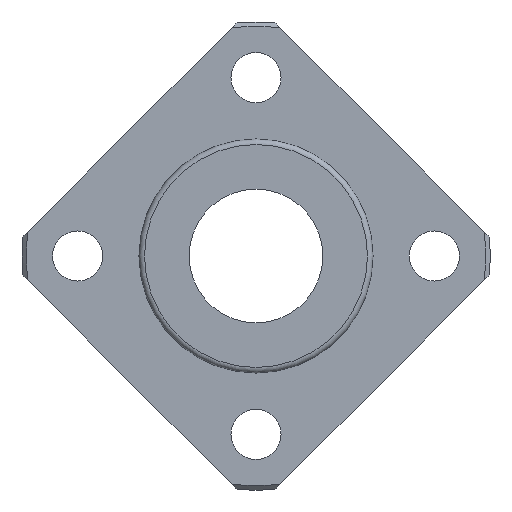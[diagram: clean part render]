
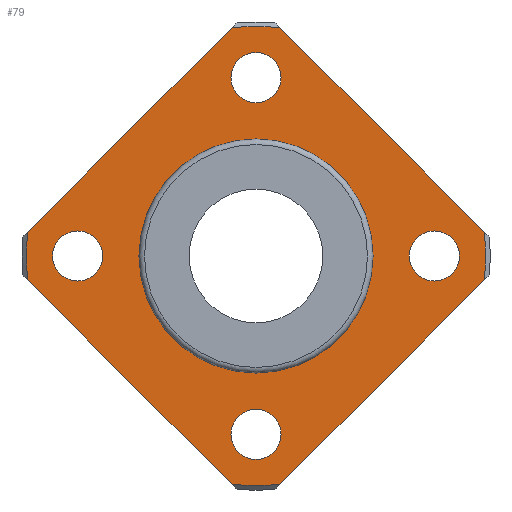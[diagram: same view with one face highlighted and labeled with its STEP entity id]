
A CAD part, left-side view. The second image highlights one B-rep face of the part: STEP entity #79.
In plain terms, the highlighted planar face has unit normal (-1, 0, 0).
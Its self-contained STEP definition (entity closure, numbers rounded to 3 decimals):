
#79=ADVANCED_FACE('',(#125,#126,#127,#128,#129,#130),#131,.T.);
#125=FACE_BOUND('',#240,.T.);
#126=FACE_BOUND('',#241,.T.);
#127=FACE_BOUND('',#242,.T.);
#128=FACE_BOUND('',#243,.T.);
#129=FACE_BOUND('',#244,.T.);
#130=FACE_OUTER_BOUND('',#245,.T.);
#131=PLANE('',#246);
#240=EDGE_LOOP('',(#387));
#241=EDGE_LOOP('',(#388));
#242=EDGE_LOOP('',(#389));
#243=EDGE_LOOP('',(#390));
#244=EDGE_LOOP('',(#391));
#245=EDGE_LOOP('',(#392,#393,#394,#395,#396,#397,#398,#399));
#246=AXIS2_PLACEMENT_3D('',#400,#401,#402);
#387=ORIENTED_EDGE('',*,*,#648,.F.);
#388=ORIENTED_EDGE('',*,*,#649,.T.);
#389=ORIENTED_EDGE('',*,*,#650,.T.);
#390=ORIENTED_EDGE('',*,*,#651,.T.);
#391=ORIENTED_EDGE('',*,*,#652,.T.);
#392=ORIENTED_EDGE('',*,*,#632,.T.);
#393=ORIENTED_EDGE('',*,*,#634,.T.);
#394=ORIENTED_EDGE('',*,*,#653,.T.);
#395=ORIENTED_EDGE('',*,*,#654,.T.);
#396=ORIENTED_EDGE('',*,*,#655,.T.);
#397=ORIENTED_EDGE('',*,*,#622,.T.);
#398=ORIENTED_EDGE('',*,*,#656,.T.);
#399=ORIENTED_EDGE('',*,*,#641,.T.);
#400=CARTESIAN_POINT('',(-6.0,15.375,0.0));
#401=DIRECTION('',(-1.0,0.0,0.));
#402=DIRECTION('',(0.,0.0,1.0));
#622=EDGE_CURVE('',#698,#699,#700,.T.);
#632=EDGE_CURVE('',#719,#717,#720,.T.);
#634=EDGE_CURVE('',#717,#722,#723,.T.);
#641=EDGE_CURVE('',#735,#719,#736,.T.);
#648=EDGE_CURVE('',#748,#748,#749,.T.);
#649=EDGE_CURVE('',#750,#750,#751,.T.);
#650=EDGE_CURVE('',#752,#752,#753,.T.);
#651=EDGE_CURVE('',#754,#754,#755,.T.);
#652=EDGE_CURVE('',#756,#756,#757,.T.);
#653=EDGE_CURVE('',#722,#758,#759,.T.);
#654=EDGE_CURVE('',#758,#760,#761,.T.);
#655=EDGE_CURVE('',#760,#698,#762,.T.);
#656=EDGE_CURVE('',#699,#735,#763,.T.);
#698=VERTEX_POINT('',#834);
#699=VERTEX_POINT('',#835);
#700=LINE('',#836,#837);
#717=VERTEX_POINT('',#869);
#719=VERTEX_POINT('',#874);
#720=CIRCLE('',#875,20.6);
#722=VERTEX_POINT('',#880);
#723=LINE('',#881,#882);
#735=VERTEX_POINT('',#906);
#736=LINE('',#907,#908);
#748=VERTEX_POINT('',#932);
#749=CIRCLE('',#933,10.15);
#750=VERTEX_POINT('',#934);
#751=CIRCLE('',#935,2.25);
#752=VERTEX_POINT('',#936);
#753=CIRCLE('',#937,2.25);
#754=VERTEX_POINT('',#938);
#755=CIRCLE('',#939,2.25);
#756=VERTEX_POINT('',#940);
#757=CIRCLE('',#941,2.25);
#758=VERTEX_POINT('',#942);
#759=CIRCLE('',#943,20.6);
#760=VERTEX_POINT('',#944);
#761=LINE('',#945,#946);
#762=CIRCLE('',#947,20.6);
#763=CIRCLE('',#948,20.6);
#834=CARTESIAN_POINT('',(-6.0,-20.489,2.139));
#835=CARTESIAN_POINT('',(-6.0,-2.139,20.489));
#836=CARTESIAN_POINT('',(-6.0,-3.626,19.001));
#837=VECTOR('',#1034,1.0);
#869=CARTESIAN_POINT('',(-6.0,20.489,-2.139));
#874=CARTESIAN_POINT('',(-6.0,20.489,2.139));
#875=AXIS2_PLACEMENT_3D('',#1041,#1042,#1043);
#880=CARTESIAN_POINT('',(-6.0,2.139,-20.489));
#881=CARTESIAN_POINT('',(-6.0,19.001,-3.626));
#882=VECTOR('',#1044,1.0);
#906=CARTESIAN_POINT('',(-6.0,2.139,20.489));
#907=CARTESIAN_POINT('',(-6.0,19.001,3.626));
#908=VECTOR('',#1048,1.0);
#932=CARTESIAN_POINT('',(-6.0,10.15,0.0));
#933=AXIS2_PLACEMENT_3D('',#1052,#1053,#1054);
#934=CARTESIAN_POINT('',(-6.0,16.0,2.25));
#935=AXIS2_PLACEMENT_3D('',#1055,#1056,#1057);
#936=CARTESIAN_POINT('',(-6.0,0.0,-13.75));
#937=AXIS2_PLACEMENT_3D('',#1058,#1059,#1060);
#938=CARTESIAN_POINT('',(-6.0,-16.0,2.25));
#939=AXIS2_PLACEMENT_3D('',#1061,#1062,#1063);
#940=CARTESIAN_POINT('',(-6.0,0.0,18.25));
#941=AXIS2_PLACEMENT_3D('',#1064,#1065,#1066);
#942=CARTESIAN_POINT('',(-6.0,-2.139,-20.489));
#943=AXIS2_PLACEMENT_3D('',#1067,#1068,#1069);
#944=CARTESIAN_POINT('',(-6.0,-20.489,-2.139));
#945=CARTESIAN_POINT('',(-6.0,-3.626,-19.001));
#946=VECTOR('',#1070,1.0);
#947=AXIS2_PLACEMENT_3D('',#1071,#1072,#1073);
#948=AXIS2_PLACEMENT_3D('',#1074,#1075,#1076);
#1034=DIRECTION('',(0.,0.707,0.707));
#1041=CARTESIAN_POINT('',(-6.0,0.0,0.0));
#1042=DIRECTION('',(-1.0,0.0,0.));
#1043=DIRECTION('',(0.0,1.0,0.0));
#1044=DIRECTION('',(0.,-0.707,-0.707));
#1048=DIRECTION('',(0.,0.707,-0.707));
#1052=CARTESIAN_POINT('',(-6.0,0.0,0.0));
#1053=DIRECTION('',(-1.0,0.0,0.));
#1054=DIRECTION('',(0.0,1.0,0.0));
#1055=CARTESIAN_POINT('',(-6.0,16.0,0.));
#1056=DIRECTION('',(1.0,0.0,0.));
#1057=DIRECTION('',(0.,0.0,-1.0));
#1058=CARTESIAN_POINT('',(-6.0,0.0,-16.0));
#1059=DIRECTION('',(1.0,0.0,0.));
#1060=DIRECTION('',(0.,0.0,-1.0));
#1061=CARTESIAN_POINT('',(-6.0,-16.0,0.));
#1062=DIRECTION('',(1.0,0.0,0.));
#1063=DIRECTION('',(0.,0.0,-1.0));
#1064=CARTESIAN_POINT('',(-6.0,0.0,16.0));
#1065=DIRECTION('',(1.0,0.0,0.));
#1066=DIRECTION('',(0.,0.0,-1.0));
#1067=CARTESIAN_POINT('',(-6.0,0.0,0.0));
#1068=DIRECTION('',(-1.0,0.0,0.));
#1069=DIRECTION('',(0.0,1.0,0.0));
#1070=DIRECTION('',(0.,-0.707,0.707));
#1071=CARTESIAN_POINT('',(-6.0,0.0,0.0));
#1072=DIRECTION('',(-1.0,0.0,0.));
#1073=DIRECTION('',(0.0,1.0,0.0));
#1074=CARTESIAN_POINT('',(-6.0,0.0,0.0));
#1075=DIRECTION('',(-1.0,0.0,0.));
#1076=DIRECTION('',(0.0,1.0,0.0));
